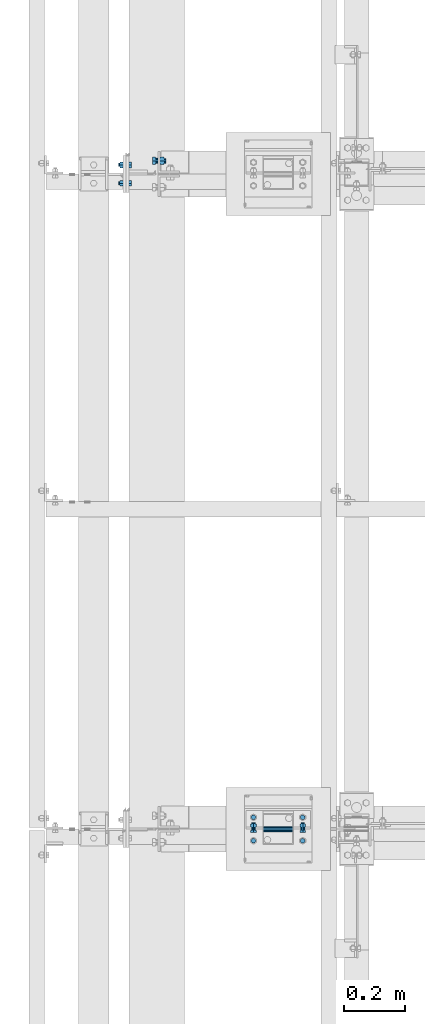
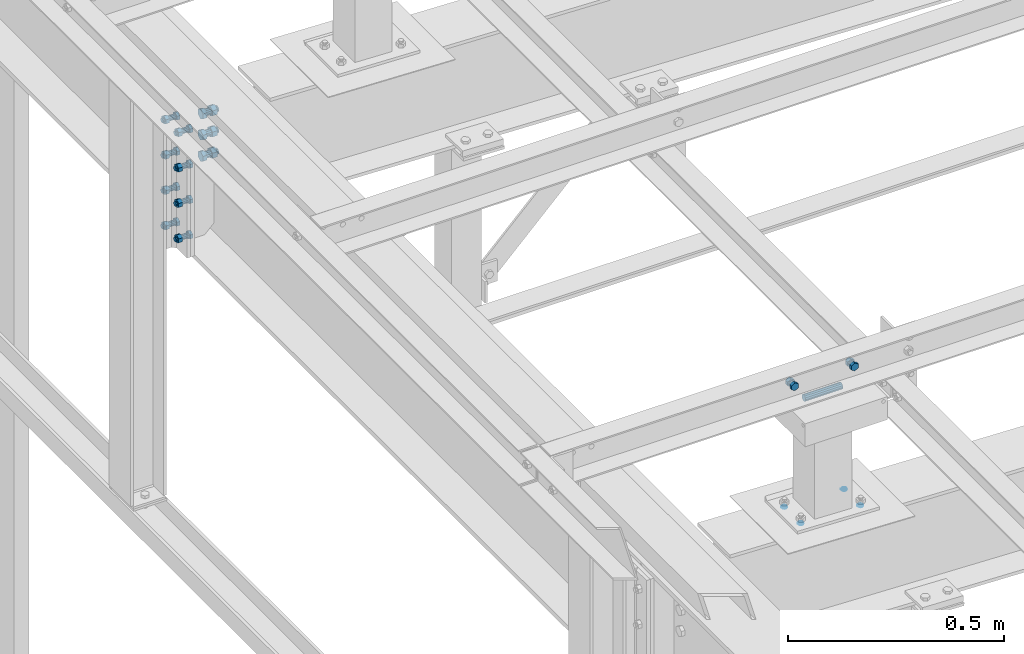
# One storey, part 37 of 3134: 5 mechanical fasteners, 4 elements without a shape of their own.
"""IFC2X3 building model written with IfcOpenShell, lengths in millimetres."""

from ifc_helpers import new_model, si_unit, frame, origin_with_axes, place, context, subcontext, project, spatial, faceted_brep, source, transform, mapped, material, type_object, element, aggregate, save


model = new_model("IFC2X3")

# Units and contexts
model_context = context("Model", 3, precision=1e-05, world=origin_with_axes())
body_context = subcontext(model_context, "Body", "Model", "MODEL_VIEW")
ifc_project = project(units=[si_unit("LENGTHUNIT", "METRE", prefix="MILLI"), si_unit("AREAUNIT", "SQUARE_METRE"), si_unit("VOLUMEUNIT", "CUBIC_METRE"), si_unit("MASSUNIT", "GRAM", prefix="KILO"), si_unit("TIMEUNIT", "SECOND"), si_unit("PLANEANGLEUNIT", "RADIAN"), si_unit("SOLIDANGLEUNIT", "STERADIAN"), si_unit("THERMODYNAMICTEMPERATUREUNIT", "DEGREE_CELSIUS"), si_unit("LUMINOUSINTENSITYUNIT", "LUMEN")], contexts=[model_context])

# Site, building, storey
site_placement = place(None, origin_with_axes())
site = spatial("IfcSite", under=ifc_project, at=site_placement, CompositionType="ELEMENT")
building_placement = place(site_placement, origin_with_axes())
building = spatial("IfcBuilding", under=site, at=building_placement, Name="Undefined", CompositionType="ELEMENT")
storey_placement = place(building_placement, origin_with_axes())
storey = spatial("IfcBuildingStorey", under=building, at=storey_placement, Name="Undefined", CompositionType="ELEMENT", Elevation=0.0)

# Assembly, mechanical fastener
assembly_1_placement = place(storey_placement, origin_with_axes())
assembly_1 = element("IfcElementAssembly", 1, at=assembly_1_placement, inside=storey, Name="IPE400", AssemblyPlace="NOTDEFINED", PredefinedType="RIGID_FRAME")
ifc_material = material(Name="8.8")
mechanical_fastener_type = type_object("IfcMechanicalFastenerType", Name="Bolt assembly")
shared_shape_1 = source(origin_with_axes(), body_context, "Body", "Brep", [
    faceted_brep([(10.9696551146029, -18.0, 0.0), (5.48482755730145, -18.0, 9.5), (-5.48482755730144, -18.0, 9.5), (-10.9696551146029, -18.0, 1.34339530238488e-15), (-5.48482755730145, -18.0, -9.5), (5.48482755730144, -18.0, -9.50000000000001), (5.48482755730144, -10.0, -9.50000000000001), (-5.48482755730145, -10.0, -9.5), (-10.9696551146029, -10.0, 1.34339530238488e-15), (-5.48482755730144, -10.0, 9.5), (5.48482755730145, -10.0, 9.5), (10.9696551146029, -10.0, 0.0), (6.0, -10.0, 0.0), (5.19615242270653, -10.0, 3.00000000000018), (2.99999999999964, -10.0, 5.19615242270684), (-6.21801588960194e-13, -10.0, 6.0), (-3.00000000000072, -10.0, 5.19615242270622), (-5.19615242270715, -10.0, 2.9999999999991), (-6.0, -10.0, -1.24360317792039e-12), (-5.19615242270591, -10.0, -3.00000000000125), (-2.99999999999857, -10.0, -5.19615242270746), (1.85874342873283e-12, -10.0, -6.0), (3.00000000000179, -10.0, -5.1961524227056), (5.19615242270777, -10.0, -2.99999999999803), (5.19615242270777, 24.9999999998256, -2.99999999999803), (3.00000000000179, 24.9999999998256, -5.1961524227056), (1.85874342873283e-12, 24.9999999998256, -6.0), (-2.99999999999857, 24.9999999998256, -5.19615242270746), (-5.19615242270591, 24.9999999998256, -3.00000000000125), (-6.0, 24.9999999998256, -1.24360317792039e-12), (-5.19615242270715, 24.9999999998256, 2.9999999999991), (-3.00000000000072, 24.9999999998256, 5.19615242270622), (-6.21801588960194e-13, 24.9999999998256, 6.0), (2.99999999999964, 24.9999999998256, 5.19615242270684), (5.19615242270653, 24.9999999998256, 3.00000000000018), (6.0, 24.9999999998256, 0.0), (10.9696551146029, 10.0, 0.0), (5.48482755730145, 10.0, 9.5), (-5.48482755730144, 10.0, 9.5), (-10.9696551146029, 10.0, 1.34339530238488e-15), (-5.48482755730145, 10.0, -9.5), (5.48482755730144, 10.0, -9.50000000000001), (5.48482755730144, 20.0, -9.50000000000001), (-5.48482755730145, 20.0, -9.5), (-10.9696551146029, 20.0, 1.34339530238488e-15), (-5.48482755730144, 20.0, 9.5), (5.48482755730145, 20.0, 9.5), (10.9696551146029, 20.0, 0.0)], [[[0, 1, 2, 3, 4, 5]], [[6, 7, 8, 9, 10, 11]], [[0, 11, 10, 1]], [[1, 10, 9, 2]], [[2, 9, 8, 3]], [[3, 8, 7, 4]], [[4, 7, 6, 5]], [[5, 6, 11, 0]], [[12, 13, 14, 15, 16, 17, 18, 19, 20, 21, 22, 23]], [[24, 25, 26, 27, 28, 29, 30, 31, 32, 33, 34, 35]], [[12, 35, 34, 13]], [[13, 34, 33, 14]], [[14, 33, 32, 15]], [[15, 32, 31, 16]], [[16, 31, 30, 17]], [[17, 30, 29, 18]], [[18, 29, 28, 19]], [[19, 28, 27, 20]], [[20, 27, 26, 21]], [[21, 26, 25, 22]], [[22, 25, 24, 23]], [[23, 24, 35, 12]], [[36, 37, 38, 39, 40, 41]], [[42, 43, 44, 45, 46, 47]], [[36, 47, 46, 37]], [[37, 46, 45, 38]], [[38, 45, 44, 39]], [[39, 44, 43, 40]], [[40, 43, 42, 41]], [[41, 42, 47, 36]]]),
    faceted_brep([(7.0, -0.1, 0.0), (6.06217782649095, -0.1, 3.50000000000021), (3.49999999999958, -0.1, 6.06217782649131), (-7.25435187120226e-13, -0.1, 7.0), (-3.50000000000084, -0.1, 6.06217782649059), (-6.06217782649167, -0.1, 3.49999999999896), (-7.0, -0.1, -1.45087037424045e-12), (-6.06217782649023, -0.1, -3.50000000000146), (-3.49999999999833, -0.1, -6.06217782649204), (2.1685340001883e-12, -0.1, -7.0), (3.50000000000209, -0.1, -6.06217782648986), (6.0621778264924, -0.1, -3.4999999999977), (6.0621778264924, 10.0, -3.4999999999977), (3.50000000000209, 10.0, -6.06217782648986), (2.1685340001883e-12, 10.0, -7.0), (-3.49999999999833, 10.0, -6.06217782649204), (-6.06217782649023, 10.0, -3.50000000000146), (-7.0, 10.0, -1.45087037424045e-12), (-6.06217782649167, 10.0, 3.49999999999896), (-3.50000000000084, 10.0, 6.06217782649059), (-7.25435187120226e-13, 10.0, 7.0), (3.49999999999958, 10.0, 6.06217782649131), (6.06217782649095, 10.0, 3.50000000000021), (7.0, 10.0, 0.0), (7.0, -9.89999913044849, 0.0), (6.06217782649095, -9.89999913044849, 3.50000000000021), (3.49999999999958, -9.89999913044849, 6.06217782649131), (-7.25435187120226e-13, -9.89999913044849, 7.0), (-3.50000000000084, -9.89999913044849, 6.06217782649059), (-6.06217782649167, -9.89999913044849, 3.49999999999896), (-7.0, -9.89999913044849, -1.45087037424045e-12), (-6.06217782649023, -9.89999913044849, -3.50000000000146), (-3.49999999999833, -9.89999913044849, -6.06217782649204), (2.1685340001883e-12, -9.89999913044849, -7.0), (3.50000000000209, -9.89999913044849, -6.06217782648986), (6.0621778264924, -9.89999913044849, -3.4999999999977), (6.0621778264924, 0.0999999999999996, -3.4999999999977), (3.50000000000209, 0.0999999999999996, -6.06217782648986), (2.1685340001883e-12, 0.0999999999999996, -7.0), (-3.49999999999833, 0.0999999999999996, -6.06217782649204), (-6.06217782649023, 0.0999999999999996, -3.50000000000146), (-7.0, 0.0999999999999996, -1.45087037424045e-12), (-6.06217782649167, 0.0999999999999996, 3.49999999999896), (-3.50000000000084, 0.0999999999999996, 6.06217782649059), (-7.25435187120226e-13, 0.0999999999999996, 7.0), (3.49999999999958, 0.0999999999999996, 6.06217782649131), (6.06217782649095, 0.0999999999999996, 3.50000000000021), (7.0, 0.0999999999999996, 0.0)], [[[0, 1, 2, 3, 4, 5, 6, 7, 8, 9, 10, 11]], [[12, 13, 14, 15, 16, 17, 18, 19, 20, 21, 22, 23]], [[0, 23, 22, 1]], [[1, 22, 21, 2]], [[2, 21, 20, 3]], [[3, 20, 19, 4]], [[4, 19, 18, 5]], [[5, 18, 17, 6]], [[6, 17, 16, 7]], [[7, 16, 15, 8]], [[8, 15, 14, 9]], [[9, 14, 13, 10]], [[10, 13, 12, 11]], [[11, 12, 23, 0]], [[24, 25, 26, 27, 28, 29, 30, 31, 32, 33, 34, 35]], [[36, 37, 38, 39, 40, 41, 42, 43, 44, 45, 46, 47]], [[24, 47, 46, 25]], [[25, 46, 45, 26]], [[26, 45, 44, 27]], [[27, 44, 43, 28]], [[28, 43, 42, 29]], [[29, 42, 41, 30]], [[30, 41, 40, 31]], [[31, 40, 39, 32]], [[32, 39, 38, 33]], [[33, 38, 37, 34]], [[34, 37, 36, 35]], [[35, 36, 47, 24]]]),
])
mechanical_fastener_1_placement = place(assembly_1_placement, frame((-100.0, 17320.0, 3990.0), z_axis=(0.0, 1.0, 0.0), x_axis=(0.0, 0.0, -1.0)))
mechanical_fastener_1 = element("IfcMechanicalFastener", 2, at=mechanical_fastener_1_placement, type_object=mechanical_fastener_type, material=ifc_material, Name="Bolt assembly", NominalDiameter=12.0, NominalLength=35.0, context=body_context, shape_type="MappedRepresentation", body=[
    mapped(shared_shape_1, transform((0.0, 4.54747350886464e-13, -30.0000000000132))),
    mapped(shared_shape_1, transform((100.0, 0.0, -30.0))),
    mapped(shared_shape_1, transform((200.0, 0.0, -30.0))),
    mapped(shared_shape_1, transform((300.0, 0.0, -30.0))),
    mapped(shared_shape_1, transform((0.0, 4.54747350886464e-13, 30.0000000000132))),
    mapped(shared_shape_1, transform((100.0, 0.0, 30.0))),
    mapped(shared_shape_1, transform((200.0, 0.0, 30.0))),
    mapped(shared_shape_1, transform((300.0, 0.0, 30.0))),
])
aggregate(assembly_1, [mechanical_fastener_1])

assembly_2_placement = place(storey_placement, origin_with_axes())
assembly_2 = element("IfcElementAssembly", 3, at=assembly_2_placement, inside=storey, AssemblyPlace="NOTDEFINED", PredefinedType="RIGID_FRAME")
shared_shape_2 = source(origin_with_axes(), body_context, "Body", "Brep", [
    faceted_brep([(13.856406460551, -18.5936482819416, 0.0), (6.92820323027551, -18.5936482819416, 12.0), (-6.92820323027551, -18.5936482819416, 12.0), (-13.856406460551, -18.5936482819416, 1.69692038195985e-15), (-6.92820323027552, -18.5936482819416, -12.0), (6.9282032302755, -18.5936482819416, -12.0), (6.9282032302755, -8.59364828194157, -12.0), (-6.92820323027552, -8.59364828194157, -12.0), (-13.856406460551, -8.59364828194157, 1.69692038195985e-15), (-6.92820323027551, -8.59364828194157, 12.0), (6.92820323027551, -8.59364828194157, 12.0), (13.856406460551, -8.59364828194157, 0.0), (8.0, -8.59364828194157, 0.0), (6.92820323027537, -8.59364828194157, 4.00000000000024), (3.99999999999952, -8.59364828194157, 6.92820323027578), (-8.29068785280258e-13, -8.59364828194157, 8.0), (-4.00000000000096, -8.59364828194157, 6.92820323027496), (-6.9282032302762, -8.59364828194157, 3.99999999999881), (-8.0, -8.59364828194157, -1.65813757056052e-12), (-6.92820323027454, -8.59364828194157, -4.00000000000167), (-3.99999999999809, -8.59364828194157, -6.92820323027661), (2.47832457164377e-12, -8.59364828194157, -8.0), (4.00000000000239, -8.59364828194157, -6.92820323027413), (6.92820323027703, -8.59364828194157, -3.99999999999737), (6.92820323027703, 26.4063517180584, -3.99999999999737), (4.00000000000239, 26.4063517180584, -6.92820323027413), (2.47832457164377e-12, 26.4063517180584, -8.0), (-3.99999999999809, 26.4063517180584, -6.92820323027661), (-6.92820323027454, 26.4063517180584, -4.00000000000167), (-8.0, 26.4063517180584, -1.65813757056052e-12), (-6.9282032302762, 26.4063517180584, 3.99999999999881), (-4.00000000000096, 26.4063517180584, 6.92820323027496), (-8.29068785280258e-13, 26.4063517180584, 8.0), (3.99999999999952, 26.4063517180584, 6.92820323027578), (6.92820323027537, 26.4063517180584, 4.00000000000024), (8.0, 26.4063517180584, 0.0), (13.856406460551, 7.0, 0.0), (6.92820323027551, 7.0, 12.0), (-6.92820323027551, 7.0, 12.0), (-13.856406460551, 7.0, 1.69692038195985e-15), (-6.92820323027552, 7.0, -12.0), (6.9282032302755, 7.0, -12.0), (6.9282032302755, 20.0, -12.0), (-6.92820323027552, 20.0, -12.0), (-13.856406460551, 20.0, 1.69692038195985e-15), (-6.92820323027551, 20.0, 12.0), (6.92820323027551, 20.0, 12.0), (13.856406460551, 20.0, 0.0)], [[[0, 1, 2, 3, 4, 5]], [[6, 7, 8, 9, 10, 11]], [[0, 11, 10, 1]], [[1, 10, 9, 2]], [[2, 9, 8, 3]], [[3, 8, 7, 4]], [[4, 7, 6, 5]], [[5, 6, 11, 0]], [[12, 13, 14, 15, 16, 17, 18, 19, 20, 21, 22, 23]], [[24, 25, 26, 27, 28, 29, 30, 31, 32, 33, 34, 35]], [[12, 35, 34, 13]], [[13, 34, 33, 14]], [[14, 33, 32, 15]], [[15, 32, 31, 16]], [[16, 31, 30, 17]], [[17, 30, 29, 18]], [[18, 29, 28, 19]], [[19, 28, 27, 20]], [[20, 27, 26, 21]], [[21, 26, 25, 22]], [[22, 25, 24, 23]], [[23, 24, 35, 12]], [[36, 37, 38, 39, 40, 41]], [[42, 43, 44, 45, 46, 47]], [[36, 47, 46, 37]], [[37, 46, 45, 38]], [[38, 45, 44, 39]], [[39, 44, 43, 40]], [[40, 43, 42, 41]], [[41, 42, 47, 36]]]),
    faceted_brep([(9.0, -8.49364828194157, 0.0), (7.79422863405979, -8.49364828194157, 4.50000000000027), (4.49999999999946, -8.49364828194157, 7.79422863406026), (-9.3270238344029e-13, -8.49364828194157, 9.0), (-4.50000000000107, -8.49364828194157, 7.79422863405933), (-7.79422863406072, -8.49364828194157, 4.49999999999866), (-9.0, -8.49364828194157, -1.86540476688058e-12), (-7.79422863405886, -8.49364828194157, -4.50000000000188), (-4.49999999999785, -8.49364828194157, -7.79422863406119), (2.78811514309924e-12, -8.49364828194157, -9.0), (4.50000000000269, -8.49364828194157, -7.7942286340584), (7.79422863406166, -8.49364828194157, -4.49999999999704), (7.79422863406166, 0.10635209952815, -4.49999999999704), (4.50000000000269, 0.10635209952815, -7.7942286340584), (2.78811514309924e-12, 0.10635209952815, -9.0), (-4.49999999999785, 0.10635209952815, -7.79422863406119), (-7.79422863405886, 0.10635209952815, -4.50000000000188), (-9.0, 0.10635209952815, -1.86540476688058e-12), (-7.79422863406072, 0.10635209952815, 4.49999999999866), (-4.50000000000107, 0.10635209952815, 7.79422863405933), (-9.3270238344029e-13, 0.10635209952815, 9.0), (4.49999999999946, 0.10635209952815, 7.79422863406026), (7.79422863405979, 0.10635209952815, 4.50000000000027), (9.0, 0.10635209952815, 0.0), (9.0, -0.1, 0.0), (7.79422863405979, -0.1, 4.50000000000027), (4.49999999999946, -0.1, 7.79422863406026), (-9.3270238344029e-13, -0.1, 9.0), (-4.50000000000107, -0.1, 7.79422863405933), (-7.79422863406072, -0.1, 4.49999999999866), (-9.0, -0.1, -1.86540476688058e-12), (-7.79422863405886, -0.1, -4.50000000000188), (-4.49999999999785, -0.1, -7.79422863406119), (2.78811514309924e-12, -0.1, -9.0), (4.50000000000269, -0.1, -7.7942286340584), (7.79422863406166, -0.1, -4.49999999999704), (7.79422863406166, 7.0, -4.49999999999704), (4.50000000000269, 7.0, -7.7942286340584), (2.78811514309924e-12, 7.0, -9.0), (-4.49999999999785, 7.0, -7.79422863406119), (-7.79422863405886, 7.0, -4.50000000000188), (-9.0, 7.0, -1.86540476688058e-12), (-7.79422863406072, 7.0, 4.49999999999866), (-4.50000000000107, 7.0, 7.79422863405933), (-9.3270238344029e-13, 7.0, 9.0), (4.49999999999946, 7.0, 7.79422863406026), (7.79422863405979, 7.0, 4.50000000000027), (9.0, 7.0, 0.0)], [[[0, 1, 2, 3, 4, 5, 6, 7, 8, 9, 10, 11]], [[12, 13, 14, 15, 16, 17, 18, 19, 20, 21, 22, 23]], [[0, 23, 22, 1]], [[1, 22, 21, 2]], [[2, 21, 20, 3]], [[3, 20, 19, 4]], [[4, 19, 18, 5]], [[5, 18, 17, 6]], [[6, 17, 16, 7]], [[7, 16, 15, 8]], [[8, 15, 14, 9]], [[9, 14, 13, 10]], [[10, 13, 12, 11]], [[11, 12, 23, 0]], [[24, 25, 26, 27, 28, 29, 30, 31, 32, 33, 34, 35]], [[36, 37, 38, 39, 40, 41, 42, 43, 44, 45, 46, 47]], [[24, 47, 46, 25]], [[25, 46, 45, 26]], [[26, 45, 44, 27]], [[27, 44, 43, 28]], [[28, 43, 42, 29]], [[29, 42, 41, 30]], [[30, 41, 40, 31]], [[31, 40, 39, 32]], [[32, 39, 38, 33]], [[33, 38, 37, 34]], [[34, 37, 36, 35]], [[35, 36, 47, 24]]]),
])
mechanical_fastener_2_placement = place(assembly_2_placement, frame((4.29364809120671, 17363.04, 3841.86727512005), z_axis=(0.0, 1.0, 0.0), x_axis=(0.0, 0.0, 1.0)))
mechanical_fastener_2 = element("IfcMechanicalFastener", 4, at=mechanical_fastener_2_placement, type_object=mechanical_fastener_type, material=ifc_material, Name="Bolt assembly", NominalDiameter=16.0, NominalLength=35.0, context=body_context, shape_type="MappedRepresentation", body=[
    mapped(shared_shape_2, transform((0.0, 0.0, 0.0))),
    mapped(shared_shape_2, transform((59.9999999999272, 0.0, 5.40239852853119e-10))),
    mapped(shared_shape_2, transform((120.0, 0.0, 0.0))),
])
aggregate(assembly_2, [mechanical_fastener_2])

assembly_3_placement = place(storey_placement, origin_with_axes())
assembly_3 = element("IfcElementAssembly", 5, at=assembly_3_placement, inside=storey, AssemblyPlace="NOTDEFINED", PredefinedType="RIGID_FRAME")
shared_shape_3 = source(origin_with_axes(), body_context, "Body", "Brep", [
    faceted_brep([(7.0, 13.0000253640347, 0.0), (6.06217782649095, 13.0000253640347, 3.50000000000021), (3.49999999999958, 13.0000253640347, 6.06217782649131), (-7.25435187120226e-13, 13.0000253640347, 7.0), (-3.50000000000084, 13.0000253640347, 6.06217782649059), (-6.06217782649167, 13.0000253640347, 3.49999999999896), (-7.0, 13.0000253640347, -1.45087037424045e-12), (-6.06217782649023, 13.0000253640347, -3.50000000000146), (-3.49999999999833, 13.0000253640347, -6.06217782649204), (2.1685340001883e-12, 13.0000253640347, -7.0), (3.50000000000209, 13.0000253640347, -6.06217782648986), (6.0621778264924, 13.0000253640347, -3.4999999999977), (6.0621778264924, 15.0999999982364, -3.4999999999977), (3.50000000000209, 15.0999999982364, -6.06217782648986), (2.1685340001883e-12, 15.0999999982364, -7.0), (-3.49999999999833, 15.0999999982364, -6.06217782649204), (-6.06217782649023, 15.0999999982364, -3.50000000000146), (-7.0, 15.0999999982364, -1.45087037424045e-12), (-6.06217782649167, 15.0999999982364, 3.49999999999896), (-3.50000000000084, 15.0999999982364, 6.06217782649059), (-7.25435187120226e-13, 15.0999999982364, 7.0), (3.49999999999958, 15.0999999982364, 6.06217782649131), (6.06217782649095, 15.0999999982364, 3.50000000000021), (7.0, 15.0999999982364, 0.0)], [[[0, 1, 2, 3, 4, 5, 6, 7, 8, 9, 10, 11]], [[12, 13, 14, 15, 16, 17, 18, 19, 20, 21, 22, 23]], [[0, 23, 22, 1]], [[1, 22, 21, 2]], [[2, 21, 20, 3]], [[3, 20, 19, 4]], [[4, 19, 18, 5]], [[5, 18, 17, 6]], [[6, 17, 16, 7]], [[7, 16, 15, 8]], [[8, 15, 14, 9]], [[9, 14, 13, 10]], [[10, 13, 12, 11]], [[11, 12, 23, 0]]]),
])
mechanical_fastener_3_placement = place(assembly_3_placement, frame((394.193176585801, 15227.9999999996, 4013.19000668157), z_axis=(-0.999387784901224, 0.0, 0.0349865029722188), x_axis=(0.0, -1.0, 0.0)))
mechanical_fastener_3 = element("IfcMechanicalFastener", 6, at=mechanical_fastener_3_placement, type_object=mechanical_fastener_type, material=ifc_material, Name="Bolt assembly", NominalDiameter=12.0, NominalLength=2.0, context=body_context, shape_type="MappedRepresentation", body=[
    mapped(shared_shape_3, transform((0.0, -5.32963895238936e-10, -79.9999999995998))),
    mapped(shared_shape_3, transform((76.0, -5.32963895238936e-10, -79.9999999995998))),
    mapped(shared_shape_3, transform((0.0, 5.3114490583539e-10, 79.9999999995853))),
    mapped(shared_shape_3, transform((76.0, 5.3114490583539e-10, 79.9999999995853))),
])
aggregate(assembly_3, [mechanical_fastener_3])

# Assembly, mechanical fasteners
assembly_4_placement = place(storey_placement, origin_with_axes())
assembly_4 = element("IfcElementAssembly", 7, at=assembly_4_placement, inside=storey, AssemblyPlace="NOTDEFINED", PredefinedType="RIGID_FRAME")
shared_shape_4 = source(origin_with_axes(), body_context, "Body", "Brep", [
    faceted_brep([(9.0, -50.0, 0.0), (7.79422863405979, -50.0, 4.50000000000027), (4.49999999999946, -50.0, 7.79422863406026), (-9.3270238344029e-13, -50.0, 9.0), (-4.50000000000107, -50.0, 7.79422863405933), (-7.79422863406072, -50.0, 4.49999999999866), (-9.0, -50.0, -1.86540476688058e-12), (-7.79422863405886, -50.0, -4.50000000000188), (-4.49999999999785, -50.0, -7.79422863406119), (2.78811514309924e-12, -50.0, -9.0), (4.50000000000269, -50.0, -7.7942286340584), (7.79422863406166, -50.0, -4.49999999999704), (7.79422863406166, 50.1, -4.49999999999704), (4.50000000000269, 50.1, -7.7942286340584), (2.78811514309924e-12, 50.1, -9.0), (-4.49999999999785, 50.1, -7.79422863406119), (-7.79422863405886, 50.1, -4.50000000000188), (-9.0, 50.1, -1.86540476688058e-12), (-7.79422863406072, 50.1, 4.49999999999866), (-4.50000000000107, 50.1, 7.79422863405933), (-9.3270238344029e-13, 50.1, 9.0), (4.49999999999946, 50.1, 7.79422863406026), (7.79422863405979, 50.1, 4.50000000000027), (9.0, 50.1, 0.0)], [[[0, 1, 2, 3, 4, 5, 6, 7, 8, 9, 10, 11]], [[12, 13, 14, 15, 16, 17, 18, 19, 20, 21, 22, 23]], [[0, 23, 22, 1]], [[1, 22, 21, 2]], [[2, 21, 20, 3]], [[3, 20, 19, 4]], [[4, 19, 18, 5]], [[5, 18, 17, 6]], [[6, 17, 16, 7]], [[7, 16, 15, 8]], [[8, 15, 14, 9]], [[9, 14, 13, 10]], [[10, 13, 12, 11]], [[11, 12, 23, 0]]]),
])
mechanical_fastener_4_placement = place(assembly_4_placement, frame((395.0, 15190.0, 4351.0), z_axis=(0.0, 1.0, 0.0), x_axis=(0.0, 0.0, 1.0)))
mechanical_fastener_4 = element("IfcMechanicalFastener", 8, at=mechanical_fastener_4_placement, type_object=mechanical_fastener_type, material=ifc_material, Name="Bolt assembly", NominalDiameter=16.0, NominalLength=100.0, context=body_context, shape_type="MappedRepresentation", body=[
    mapped(shared_shape_4, transform((0.0, 0.0, 0.0))),
])
shared_shape_5 = source(origin_with_axes(), body_context, "Body", "Brep", [
    faceted_brep([(10.9696551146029, -12.0, 0.0), (5.48482755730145, -12.0, 9.5), (-5.48482755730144, -12.0, 9.5), (-10.9696551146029, -12.0, 1.34339530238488e-15), (-5.48482755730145, -12.0, -9.5), (5.48482755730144, -12.0, -9.50000000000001), (5.48482755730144, -4.0, -9.50000000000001), (-5.48482755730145, -4.0, -9.5), (-10.9696551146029, -4.0, 1.34339530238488e-15), (-5.48482755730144, -4.0, 9.5), (5.48482755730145, -4.0, 9.5), (10.9696551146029, -4.0, 0.0), (6.0, -4.0, 0.0), (5.19615242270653, -4.0, 3.00000000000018), (2.99999999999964, -4.0, 5.19615242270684), (-6.21801588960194e-13, -4.0, 6.0), (-3.00000000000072, -4.0, 5.19615242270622), (-5.19615242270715, -4.0, 2.9999999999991), (-6.0, -4.0, -1.24360317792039e-12), (-5.19615242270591, -4.0, -3.00000000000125), (-2.99999999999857, -4.0, -5.19615242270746), (1.85874342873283e-12, -4.0, -6.0), (3.00000000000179, -4.0, -5.1961524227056), (5.19615242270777, -4.0, -2.99999999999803), (5.19615242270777, 21.0, -2.99999999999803), (3.00000000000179, 21.0, -5.1961524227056), (1.85874342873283e-12, 21.0, -6.0), (-2.99999999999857, 21.0, -5.19615242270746), (-5.19615242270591, 21.0, -3.00000000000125), (-6.0, 21.0, -1.24360317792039e-12), (-5.19615242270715, 21.0, 2.9999999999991), (-3.00000000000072, 21.0, 5.19615242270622), (-6.21801588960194e-13, 21.0, 6.0), (2.99999999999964, 21.0, 5.19615242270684), (5.19615242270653, 21.0, 3.00000000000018), (6.0, 21.0, 0.0), (10.9696551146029, 6.00000000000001, 0.0), (5.48482755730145, 6.00000000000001, 9.5), (-5.48482755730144, 6.00000000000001, 9.5), (-10.9696551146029, 6.00000000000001, 1.34339530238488e-15), (-5.48482755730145, 6.00000000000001, -9.5), (5.48482755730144, 6.00000000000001, -9.50000000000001), (5.48482755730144, 16.0, -9.50000000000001), (-5.48482755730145, 16.0, -9.5), (-10.9696551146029, 16.0, 1.34339530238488e-15), (-5.48482755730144, 16.0, 9.5), (5.48482755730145, 16.0, 9.5), (10.9696551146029, 16.0, 0.0)], [[[0, 1, 2, 3, 4, 5]], [[6, 7, 8, 9, 10, 11]], [[0, 11, 10, 1]], [[1, 10, 9, 2]], [[2, 9, 8, 3]], [[3, 8, 7, 4]], [[4, 7, 6, 5]], [[5, 6, 11, 0]], [[12, 13, 14, 15, 16, 17, 18, 19, 20, 21, 22, 23]], [[24, 25, 26, 27, 28, 29, 30, 31, 32, 33, 34, 35]], [[12, 35, 34, 13]], [[13, 34, 33, 14]], [[14, 33, 32, 15]], [[15, 32, 31, 16]], [[16, 31, 30, 17]], [[17, 30, 29, 18]], [[18, 29, 28, 19]], [[19, 28, 27, 20]], [[20, 27, 26, 21]], [[21, 26, 25, 22]], [[22, 25, 24, 23]], [[23, 24, 35, 12]], [[36, 37, 38, 39, 40, 41]], [[42, 43, 44, 45, 46, 47]], [[36, 47, 46, 37]], [[37, 46, 45, 38]], [[38, 45, 44, 39]], [[39, 44, 43, 40]], [[40, 43, 42, 41]], [[41, 42, 47, 36]]]),
    faceted_brep([(7.0, -3.9, 0.0), (6.06217782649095, -3.9, 3.50000000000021), (3.49999999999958, -3.9, 6.06217782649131), (-7.25435187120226e-13, -3.9, 7.0), (-3.50000000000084, -3.9, 6.06217782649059), (-6.06217782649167, -3.9, 3.49999999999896), (-7.0, -3.9, -1.45087037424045e-12), (-6.06217782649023, -3.9, -3.50000000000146), (-3.49999999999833, -3.9, -6.06217782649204), (2.1685340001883e-12, -3.9, -7.0), (3.50000000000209, -3.9, -6.06217782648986), (6.0621778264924, -3.9, -3.4999999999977), (6.0621778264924, 0.0999999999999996, -3.4999999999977), (3.50000000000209, 0.0999999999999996, -6.06217782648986), (2.1685340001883e-12, 0.0999999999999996, -7.0), (-3.49999999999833, 0.0999999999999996, -6.06217782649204), (-6.06217782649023, 0.0999999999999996, -3.50000000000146), (-7.0, 0.0999999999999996, -1.45087037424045e-12), (-6.06217782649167, 0.0999999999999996, 3.49999999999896), (-3.50000000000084, 0.0999999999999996, 6.06217782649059), (-7.25435187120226e-13, 0.0999999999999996, 7.0), (3.49999999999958, 0.0999999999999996, 6.06217782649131), (6.06217782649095, 0.0999999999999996, 3.50000000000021), (7.0, 0.0999999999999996, 0.0), (7.0, -0.1, 0.0), (6.06217782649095, -0.1, 3.50000000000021), (3.49999999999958, -0.1, 6.06217782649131), (-7.25435187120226e-13, -0.1, 7.0), (-3.50000000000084, -0.1, 6.06217782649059), (-6.06217782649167, -0.1, 3.49999999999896), (-7.0, -0.1, -1.45087037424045e-12), (-6.06217782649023, -0.1, -3.50000000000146), (-3.49999999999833, -0.1, -6.06217782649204), (2.1685340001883e-12, -0.1, -7.0), (3.50000000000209, -0.1, -6.06217782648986), (6.0621778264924, -0.1, -3.4999999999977), (6.0621778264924, 6.00000000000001, -3.4999999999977), (3.50000000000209, 6.00000000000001, -6.06217782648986), (2.1685340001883e-12, 6.00000000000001, -7.0), (-3.49999999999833, 6.00000000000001, -6.06217782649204), (-6.06217782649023, 6.00000000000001, -3.50000000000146), (-7.0, 6.00000000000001, -1.45087037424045e-12), (-6.06217782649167, 6.00000000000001, 3.49999999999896), (-3.50000000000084, 6.00000000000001, 6.06217782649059), (-7.25435187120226e-13, 6.00000000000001, 7.0), (3.49999999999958, 6.00000000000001, 6.06217782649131), (6.06217782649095, 6.00000000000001, 3.50000000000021), (7.0, 6.00000000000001, 0.0)], [[[0, 1, 2, 3, 4, 5, 6, 7, 8, 9, 10, 11]], [[12, 13, 14, 15, 16, 17, 18, 19, 20, 21, 22, 23]], [[0, 23, 22, 1]], [[1, 22, 21, 2]], [[2, 21, 20, 3]], [[3, 20, 19, 4]], [[4, 19, 18, 5]], [[5, 18, 17, 6]], [[6, 17, 16, 7]], [[7, 16, 15, 8]], [[8, 15, 14, 9]], [[9, 14, 13, 10]], [[10, 13, 12, 11]], [[11, 12, 23, 0]], [[24, 25, 26, 27, 28, 29, 30, 31, 32, 33, 34, 35]], [[36, 37, 38, 39, 40, 41, 42, 43, 44, 45, 46, 47]], [[24, 47, 46, 25]], [[25, 46, 45, 26]], [[26, 45, 44, 27]], [[27, 44, 43, 28]], [[28, 43, 42, 29]], [[29, 42, 41, 30]], [[30, 41, 40, 31]], [[31, 40, 39, 32]], [[32, 39, 38, 33]], [[33, 38, 37, 34]], [[34, 37, 36, 35]], [[35, 36, 47, 24]]]),
])
mechanical_fastener_5_placement = place(assembly_4_placement, frame((394.999950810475, 15189.999683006, 4400.0), z_axis=(1.0, 0.0, 0.0), x_axis=(0.0, 0.0, -1.0)))
mechanical_fastener_5 = element("IfcMechanicalFastener", 9, at=mechanical_fastener_5_placement, type_object=mechanical_fastener_type, material=ifc_material, Name="Bolt assembly", NominalDiameter=12.0, NominalLength=25.0, context=body_context, shape_type="MappedRepresentation", body=[
    mapped(shared_shape_5, transform((0.0, -5.32963895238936e-10, -79.9999999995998))),
    mapped(shared_shape_5, transform((0.0, 5.3114490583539e-10, 79.9999999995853))),
])
aggregate(assembly_4, [mechanical_fastener_4, mechanical_fastener_5])

save(model, "model.ifc")
